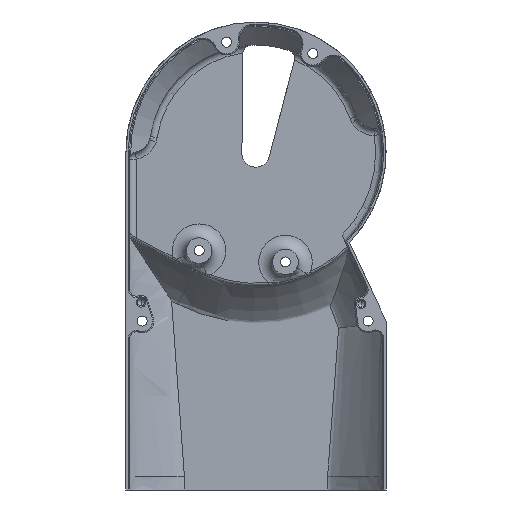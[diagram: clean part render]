
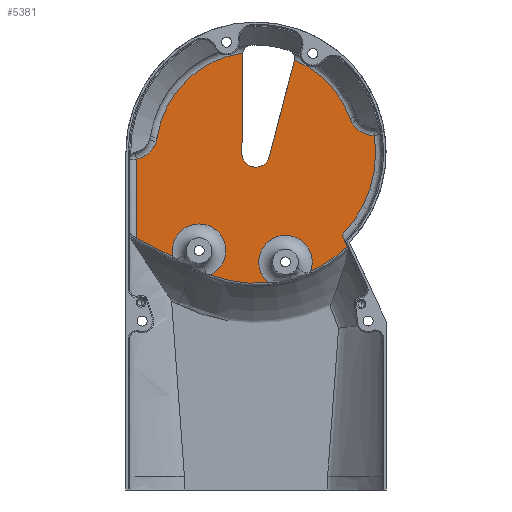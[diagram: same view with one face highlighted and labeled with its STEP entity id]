
A CAD part, front view. The second image highlights one B-rep face of the part: STEP entity #5381.
In plain terms, the highlighted planar face has unit normal (0, -1, 0).
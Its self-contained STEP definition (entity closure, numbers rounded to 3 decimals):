
#787=DIRECTION('',(0.,0.,-1.));
#788=VECTOR('',#787,34.025);
#789=CARTESIAN_POINT('',(-177.5,33.85,-97.));
#790=LINE('',#789,#788);
#807=CARTESIAN_POINT('',(-126.,33.85,-94.));
#808=DIRECTION('',(0.,-1.,0.));
#809=DIRECTION('',(0.415,0.,-0.91));
#810=AXIS2_PLACEMENT_3D('',#807,#808,#809);
#812=CARTESIAN_POINT('',(-113.318,33.85,-141.33));
#813=DIRECTION('',(0.,-1.,0.));
#814=DIRECTION('',(0.935,0.,-0.355));
#815=AXIS2_PLACEMENT_3D('',#812,#813,#814);
#817=CARTESIAN_POINT('',(-113.318,33.85,-141.33));
#818=DIRECTION('',(0.,-1.,0.));
#819=DIRECTION('',(0.,0.,1.));
#820=AXIS2_PLACEMENT_3D('',#817,#818,#819);
#822=CARTESIAN_POINT('',(-126.,33.85,-94.));
#823=DIRECTION('',(0.,-1.,0.));
#824=DIRECTION('',(-0.35,0.,-0.937));
#825=AXIS2_PLACEMENT_3D('',#822,#823,#824);
#827=CARTESIAN_POINT('',(-150.5,33.85,-136.435));
#828=DIRECTION('',(0.,-1.,0.));
#829=DIRECTION('',(0.41,0.,-0.912));
#830=AXIS2_PLACEMENT_3D('',#827,#828,#829);
#832=CARTESIAN_POINT('',(-150.5,33.85,-136.435));
#833=DIRECTION('',(0.,-1.,0.));
#834=DIRECTION('',(0.,0.,1.));
#835=AXIS2_PLACEMENT_3D('',#832,#833,#834);
#837=DIRECTION('',(0.889,0.,-0.458));
#838=VECTOR('',#837,17.81);
#839=CARTESIAN_POINT('',(-177.5,33.85,-131.025));
#840=LINE('',#839,#838);
#841=CARTESIAN_POINT('',(-179.429,33.85,-86.171));
#842=DIRECTION('',(0.,-1.,0.));
#843=DIRECTION('',(0.175,0.,-0.984));
#844=AXIS2_PLACEMENT_3D('',#841,#842,#843);
#846=CARTESIAN_POINT('',(-169.004,33.85,-89.679));
#847=CARTESIAN_POINT('',(-168.793,33.85,-89.051));
#848=CARTESIAN_POINT('',(-168.644,33.85,-88.412));
#849=CARTESIAN_POINT('',(-168.549,33.85,-87.765));
#851=CARTESIAN_POINT('',(-126.,33.85,-94.));
#852=DIRECTION('',(0.,1.,0.));
#853=DIRECTION('',(-0.989,0.,0.145));
#854=AXIS2_PLACEMENT_3D('',#851,#852,#853);
#856=CARTESIAN_POINT('',(-128.224,33.85,-51.558));
#857=DIRECTION('',(0.,-1.,0.));
#858=DIRECTION('',(-0.999,0.,0.051));
#859=AXIS2_PLACEMENT_3D('',#856,#857,#858);
#861=DIRECTION('',(-0.008,0.,-1.));
#862=VECTOR('',#861,42.919);
#863=CARTESIAN_POINT('',(-131.724,33.85,-51.53));
#864=LINE('',#863,#862);
#865=CARTESIAN_POINT('',(-126.065,33.85,-94.496));
#866=DIRECTION('',(0.,-1.,0.));
#867=DIRECTION('',(-1.,0.,0.008));
#868=AXIS2_PLACEMENT_3D('',#865,#866,#867);
#870=CARTESIAN_POINT('',(-126.065,33.85,-94.496));
#871=DIRECTION('',(0.,-1.,0.));
#872=DIRECTION('',(0.,0.,-1.));
#873=AXIS2_PLACEMENT_3D('',#870,#871,#872);
#875=DIRECTION('',(0.251,0.,0.968));
#876=VECTOR('',#875,42.919);
#877=CARTESIAN_POINT('',(-120.258,33.85,-96.003));
#878=LINE('',#877,#876);
#879=CARTESIAN_POINT('',(-112.867,33.85,-53.58));
#880=DIRECTION('',(0.,-1.,0.));
#881=DIRECTION('',(0.968,0.,-0.251));
#882=AXIS2_PLACEMENT_3D('',#879,#880,#881);
#884=CARTESIAN_POINT('',(-126.,33.85,-94.));
#885=DIRECTION('',(0.,1.,0.));
#886=DIRECTION('',(0.385,0.,0.923));
#887=AXIS2_PLACEMENT_3D('',#884,#885,#886);
#889=CARTESIAN_POINT('',(-85.502,33.85,-79.535));
#890=CARTESIAN_POINT('',(-85.282,33.85,-80.151));
#891=CARTESIAN_POINT('',(-85.011,33.85,-80.748));
#892=CARTESIAN_POINT('',(-84.681,33.85,-81.322));
#894=CARTESIAN_POINT('',(-75.147,33.85,-75.836));
#895=DIRECTION('',(0.,-1.,0.));
#896=DIRECTION('',(-0.867,0.,-0.499));
#897=AXIS2_PLACEMENT_3D('',#894,#895,#896);
#899=CARTESIAN_POINT('',(-126.,33.85,-94.));
#900=DIRECTION('',(0.,1.,0.));
#901=DIRECTION('',(0.99,0.,0.139));
#902=AXIS2_PLACEMENT_3D('',#899,#900,#901);
#904=DIRECTION('',(0.423,0.,-0.906));
#905=VECTOR('',#904,5.323);
#906=CARTESIAN_POINT('',(-88.921,33.85,-129.741));
#907=LINE('',#906,#905);
#1031=CARTESIAN_POINT('',(-88.921,33.85,-129.741));
#1247=CARTESIAN_POINT('',(-131.72,33.85,-51.378));
#1455=CARTESIAN_POINT('',(-75.147,33.85,-75.836));
#1456=DIRECTION('',(0.,1.,0.));
#1457=DIRECTION('',(0.013,0.,-1.));
#1458=AXIS2_PLACEMENT_3D('',#1455,#1456,#1457);
#2966=CARTESIAN_POINT('',(-120.589,33.85,-150.24));
#3074=CARTESIAN_POINT('',(-161.667,33.85,-139.182));
#4176=VERTEX_POINT('',#1031);
#4207=CARTESIAN_POINT('',(-177.5,33.85,-97.));
#4208=VERTEX_POINT('',#4207);
#4220=VERTEX_POINT('',#1247);
#4221=CARTESIAN_POINT('',(-168.549,33.85,-87.765));
#4222=VERTEX_POINT('',#4221);
#4231=CARTESIAN_POINT('',(-85.502,33.85,-79.535));
#4232=VERTEX_POINT('',#4231);
#4233=CARTESIAN_POINT('',(-109.444,33.85,-54.311));
#4234=VERTEX_POINT('',#4233);
#4245=CARTESIAN_POINT('',(-75.001,33.85,-86.835));
#4246=VERTEX_POINT('',#4245);
#4247=CARTESIAN_POINT('',(-169.004,33.85,-89.679));
#4248=VERTEX_POINT('',#4247);
#4249=CARTESIAN_POINT('',(-131.724,33.85,-51.53));
#4250=VERTEX_POINT('',#4249);
#4251=CARTESIAN_POINT('',(-132.065,33.85,-94.448));
#4252=VERTEX_POINT('',#4251);
#4253=CARTESIAN_POINT('',(-126.065,33.85,-100.496));
#4254=VERTEX_POINT('',#4253);
#4255=CARTESIAN_POINT('',(-120.258,33.85,-96.003));
#4256=VERTEX_POINT('',#4255);
#4257=CARTESIAN_POINT('',(-109.479,33.85,-54.459));
#4258=VERTEX_POINT('',#4257);
#4259=VERTEX_POINT('',#892);
#4260=CARTESIAN_POINT('',(-75.147,33.85,-86.836));
#4261=VERTEX_POINT('',#4260);
#4566=CARTESIAN_POINT('',(-102.566,33.85,-145.411));
#4567=CARTESIAN_POINT('',(-86.672,33.85,-134.565));
#4568=VERTEX_POINT('',#4566);
#4569=VERTEX_POINT('',#4567);
#4574=VERTEX_POINT('',#2966);
#4576=CARTESIAN_POINT('',(-145.783,33.85,-146.923));
#4577=VERTEX_POINT('',#4576);
#4588=VERTEX_POINT('',#3074);
#4590=CARTESIAN_POINT('',(-177.5,33.85,
-131.025));
#4591=VERTEX_POINT('',#4590);
#4596=CARTESIAN_POINT('',(-150.5,33.85,-124.935));
#4597=VERTEX_POINT('',#4596);
#4598=CARTESIAN_POINT('',(-113.318,33.85,-129.83));
#4599=VERTEX_POINT('',#4598);
#5330=CARTESIAN_POINT('',(0.,33.85,-94.));
#5331=DIRECTION('',(0.,-1.,0.));
#5332=DIRECTION('',(-1.,0.,0.));
#5333=AXIS2_PLACEMENT_3D('',#5330,#5331,#5332);
#5334=PLANE('',#5333);
#5336=ORIENTED_EDGE('',*,*,#5335,.F.);
#5338=ORIENTED_EDGE('',*,*,#5337,.T.);
#5340=ORIENTED_EDGE('',*,*,#5339,.T.);
#5342=ORIENTED_EDGE('',*,*,#5341,.F.);
#5344=ORIENTED_EDGE('',*,*,#5343,.T.);
#5346=ORIENTED_EDGE('',*,*,#5345,.T.);
#5347=ORIENTED_EDGE('',*,*,#5320,.F.);
#5348=ORIENTED_EDGE('',*,*,#5260,.F.);
#5350=ORIENTED_EDGE('',*,*,#5349,.T.);
#5352=ORIENTED_EDGE('',*,*,#5351,.T.);
#5354=ORIENTED_EDGE('',*,*,#5353,.T.);
#5356=ORIENTED_EDGE('',*,*,#5355,.T.);
#5358=ORIENTED_EDGE('',*,*,#5357,.T.);
#5360=ORIENTED_EDGE('',*,*,#5359,.T.);
#5362=ORIENTED_EDGE('',*,*,#5361,.T.);
#5364=ORIENTED_EDGE('',*,*,#5363,.T.);
#5366=ORIENTED_EDGE('',*,*,#5365,.T.);
#5368=ORIENTED_EDGE('',*,*,#5367,.T.);
#5370=ORIENTED_EDGE('',*,*,#5369,.T.);
#5372=ORIENTED_EDGE('',*,*,#5371,.T.);
#5374=ORIENTED_EDGE('',*,*,#5373,.F.);
#5376=ORIENTED_EDGE('',*,*,#5375,.T.);
#5378=ORIENTED_EDGE('',*,*,#5377,.T.);
#5379=EDGE_LOOP('',(#5336,#5338,#5340,#5342,#5344,#5346,#5347,#5348,#5350,#5352,
#5354,#5356,#5358,#5360,#5362,#5364,#5366,#5368,#5370,#5372,#5374,#5376,#5378));
#5380=FACE_OUTER_BOUND('',#5379,.F.);
#5381=ADVANCED_FACE('',(#5380),#5334,.T.);
#811=CIRCLE('',#810,56.5);
#816=CIRCLE('',#815,11.5);
#821=CIRCLE('',#820,11.5);
#826=CIRCLE('',#825,56.5);
#831=CIRCLE('',#830,11.5);
#836=CIRCLE('',#835,11.5);
#845=CIRCLE('',#844,11.);
#850=B_SPLINE_CURVE_WITH_KNOTS('',3,(#846,#847,#848,#849),.UNSPECIFIED.,.F.,.F.,
(4,4),(0.,1.),.UNSPECIFIED.);
#855=CIRCLE('',#854,43.004);
#860=CIRCLE('',#859,3.5);
#869=CIRCLE('',#868,6.);
#874=CIRCLE('',#873,6.);
#883=CIRCLE('',#882,3.5);
#888=CIRCLE('',#887,43.004);
#893=B_SPLINE_CURVE_WITH_KNOTS('',3,(#889,#890,#891,#892),.UNSPECIFIED.,.F.,.F.,
(4,4),(0.,1.),.UNSPECIFIED.);
#898=CIRCLE('',#897,11.);
#903=CIRCLE('',#902,51.5);
#1459=CIRCLE('',#1458,11.);
#5260=EDGE_CURVE('',#4208,#4591,#790,.T.);
#5320=EDGE_CURVE('',#4591,#4588,#840,.T.);
#5335=EDGE_CURVE('',#4568,#4569,#811,.T.);
#5337=EDGE_CURVE('',#4568,#4599,#816,.T.);
#5339=EDGE_CURVE('',#4599,#4574,#821,.T.);
#5341=EDGE_CURVE('',#4577,#4574,#826,.T.);
#5343=EDGE_CURVE('',#4577,#4597,#831,.T.);
#5345=EDGE_CURVE('',#4597,#4588,#836,.T.);
#5349=EDGE_CURVE('',#4208,#4248,#845,.T.);
#5351=EDGE_CURVE('',#4248,#4222,#850,.T.);
#5353=EDGE_CURVE('',#4222,#4220,#855,.T.);
#5355=EDGE_CURVE('',#4220,#4250,#860,.T.);
#5357=EDGE_CURVE('',#4250,#4252,#864,.T.);
#5359=EDGE_CURVE('',#4252,#4254,#869,.T.);
#5361=EDGE_CURVE('',#4254,#4256,#874,.T.);
#5363=EDGE_CURVE('',#4256,#4258,#878,.T.);
#5365=EDGE_CURVE('',#4258,#4234,#883,.T.);
#5367=EDGE_CURVE('',#4234,#4232,#888,.T.);
#5369=EDGE_CURVE('',#4232,#4259,#893,.T.);
#5371=EDGE_CURVE('',#4259,#4261,#898,.T.);
#5373=EDGE_CURVE('',#4246,#4261,#1459,.T.);
#5375=EDGE_CURVE('',#4246,#4176,#903,.T.);
#5377=EDGE_CURVE('',#4176,#4569,#907,.T.);
